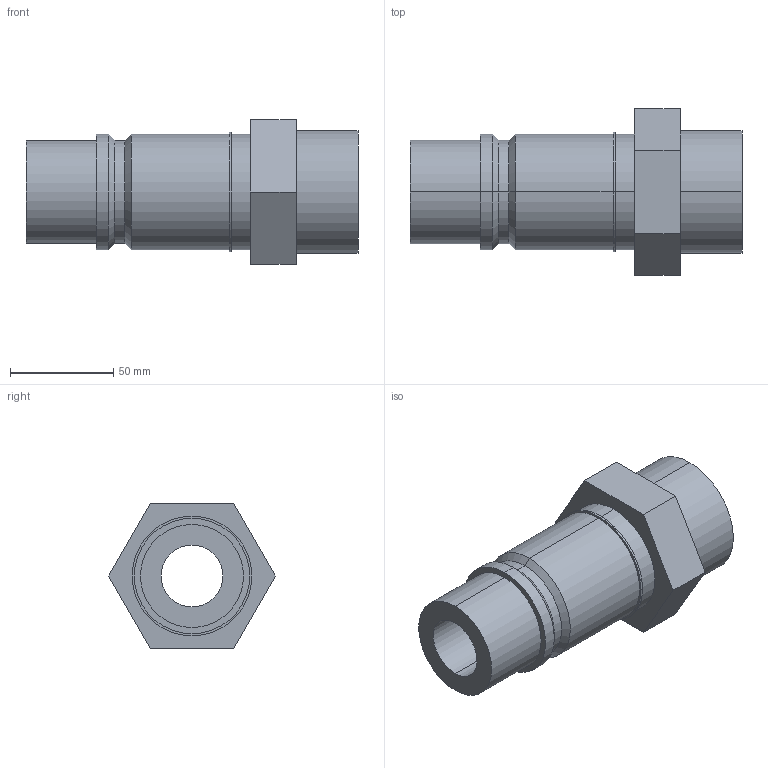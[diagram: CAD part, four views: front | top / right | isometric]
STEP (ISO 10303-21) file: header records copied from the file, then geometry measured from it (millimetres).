
FILE_DESCRIPTION (( 'STEP AP214' ), '1' );
FILE_NAME ('BR601.38 ERB 60.STEP', '2020-12-02T13:55:03', ( '' ), ( '' ), 'SwSTEP 2.0', 'SolidWorks 2018', '' );
FILE_SCHEMA (( 'AUTOMOTIVE_DESIGN' ));
Length unit declared in the file: millimetre
Products named in the file (1): BR601.38 ERB 60
Bounding box: 161 x 80.83 x 70 mm (x, y, z)
Volume: 308621.1 mm3; surface area: 52095.5 mm2
Topology: 1 solids, 1 shells, 35 faces, 74 edges, 46 vertices
Faces by surface type: cylinder 16, plane 13, cone 6
Entity records: 980 total; most frequent: DIRECTION 180, CARTESIAN_POINT 156, ORIENTED_EDGE 148, EDGE_CURVE 74, AXIS2_PLACEMENT_3D 70, VERTEX_POINT 46, EDGE_LOOP 42, LINE 40
